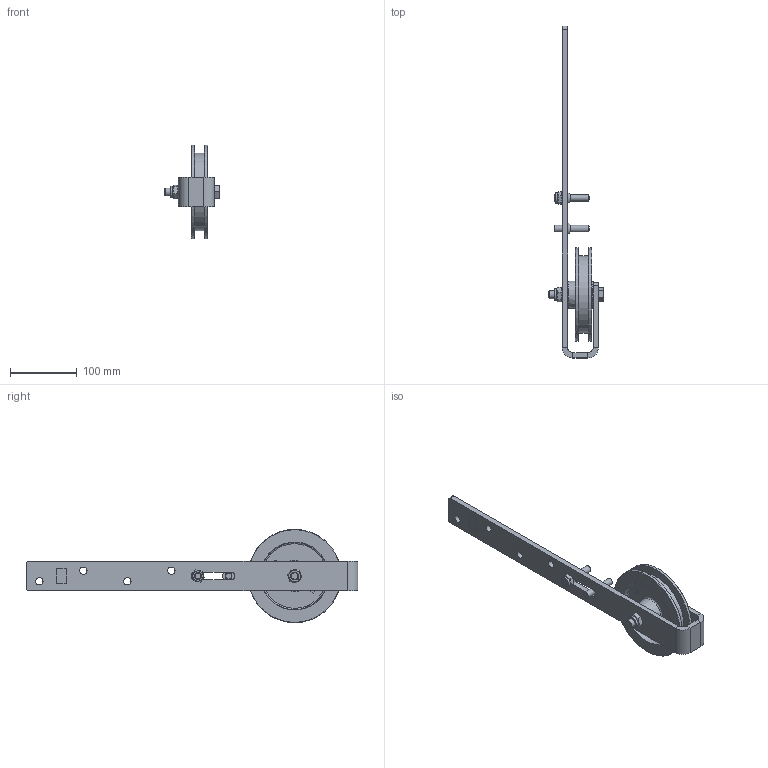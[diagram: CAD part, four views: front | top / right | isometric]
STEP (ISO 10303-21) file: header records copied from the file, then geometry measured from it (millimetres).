
FILE_DESCRIPTION(/* description */ ('Schiebetorrolle mit Buegel Ø140'),/* implementation_level */ '2;1');
FILE_NAME(/* name */ 'C:\Temp\AG_VJobSTP\010330165.iam.stp',/* time_stamp */ '2022-09-02T10:00:32+02:00',/* author */ ('Lesti'),/* organization */ (''),/* preprocessor_version */ 'ST-DEVELOPER v18.1',/* originating_system */ 'Autodesk Inventor 2021',/* authorisation */ '');
FILE_SCHEMA (('AUTOMOTIVE_DESIGN { 1 0 10303 214 3 1 1 }'));
Length unit declared in the file: millimetre
Products named in the file (8): 010330165; 011330152_02; 337000107; 011331037; DIN EN ISO 7040 - M10; DIN EN ISO 7040 - M12; DIN 931-1 - M12 x 75; 010330165_02
Assembly tree (16 placements, depth 2):
  010330165
    011330152_02
    337000107
    011331037  x2
    DIN EN ISO 7040 - M10
    DIN EN ISO 7040 - M12
    DIN 931-1 - M12 x 75
    010330165_02  x9
Bounding box: 82.5 x 498 x 139.99 mm (x, y, z)
Volume: 431242.8 mm3; surface area: 146713.3 mm2
Topology: 16 solids, 16 shells, 218 faces, 471 edges, 298 vertices
Faces by surface type: plane 127, cylinder 43, cone 27, bspline 15, torus 6
Full cylindrical faces by diameter (mm): 6 x9, 8.376 x1, 10 x4, 10.106 x1, 11 x4, 12 x1, 12.5 x2, 15.6 x1, 17.4 x2, 18 x2, 24 x1, 116 x1, 140 x2
Entity records: 5523 total; most frequent: CARTESIAN_POINT 1142, DIRECTION 844, ORIENTED_EDGE 822, EDGE_CURVE 411, AXIS2_PLACEMENT_3D 306, VERTEX_POINT 261, LINE 232, VECTOR 232
